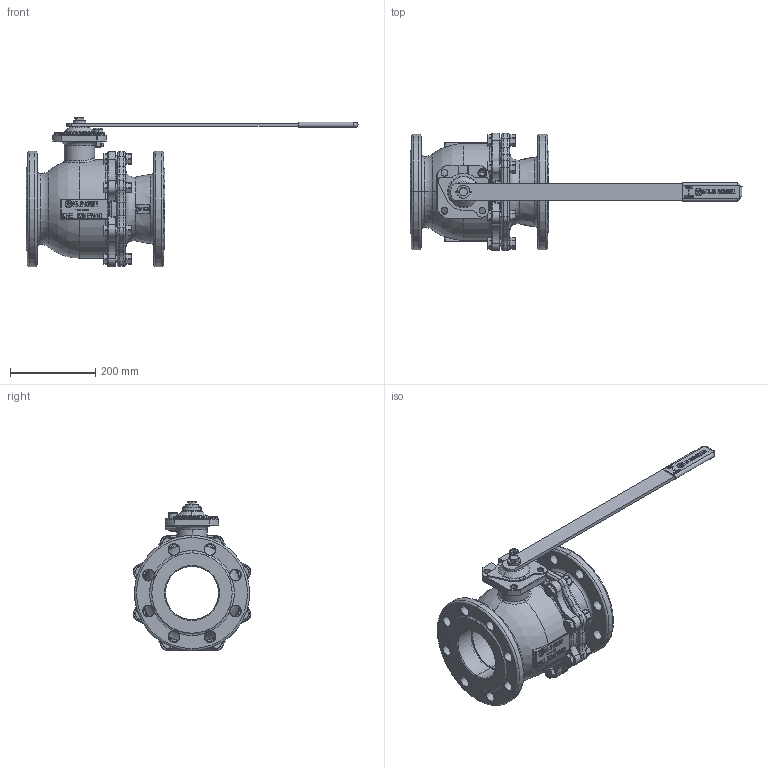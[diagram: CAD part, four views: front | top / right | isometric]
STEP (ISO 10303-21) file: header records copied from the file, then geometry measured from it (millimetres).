
FILE_DESCRIPTION((''),'2;1');
FILE_NAME('KHEFK125VFK125P040PHHP','2015-09-01T',('santag'),('RAND'),'PRO/ENGINEER BY PARAMETRIC TECHNOLOGY CORPORATION, 2013410','PRO/ENGINEER BY PARAMETRIC TECHNOLOGY CORPORATION, 2013410','');
FILE_SCHEMA(('CONFIG_CONTROL_DESIGN'));
Products named in the file (1): KHEFK125VFK125P040PHHP
Bounding box: 777 x 274.21 x 349.7 mm (x, y, z)
Volume: 8143293.5 mm3; surface area: 1086294.6 mm2
Topology: 1 solids, 1 shells, 3196 faces, 8416 edges, 5343 vertices
Faces by surface type: plane 1960, cylinder 505, torus 303, cone 274, bspline 140, sphere 14
Entity records: 122905 total; most frequent: CARTESIAN_POINT 44284, ORIENTED_EDGE 16816, DIRECTION 15821, EDGE_CURVE 8408, VECTOR 5605, LINE 5605, VERTEX_POINT 5343, AXIS2_PLACEMENT_3D 5108
